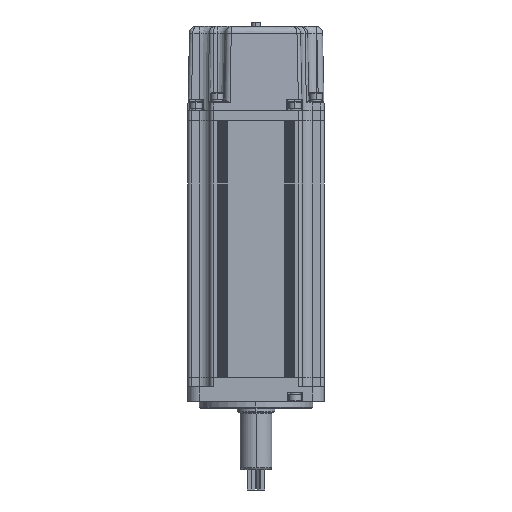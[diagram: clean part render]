
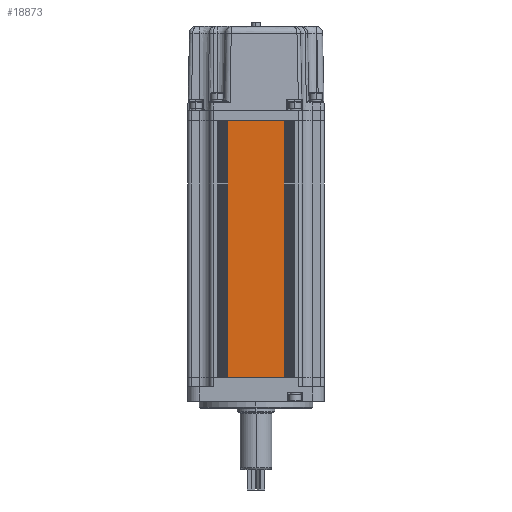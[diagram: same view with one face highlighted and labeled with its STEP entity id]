
A CAD part, left-side view. The second image highlights one B-rep face of the part: STEP entity #18873.
In plain terms, the highlighted planar face has unit normal (-1, 0, 0) as drawn and (1, 0, 0) by its records, which use the part's own axes.
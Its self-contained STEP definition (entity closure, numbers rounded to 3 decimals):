
#12036=DIRECTION('',(0.,1.,0.));
#12037=VECTOR('',#12036,25.);
#12038=CARTESIAN_POINT('',(30.,-12.5,0.));
#12039=LINE('',#12038,#12037);
#13359=DIRECTION('',(0.,1.,0.));
#13360=VECTOR('',#13359,25.);
#13361=CARTESIAN_POINT('',(30.,-12.5,113.));
#13362=LINE('',#13361,#13360);
#14517=DIRECTION('',(0.,0.,1.));
#14518=VECTOR('',#14517,113.);
#14519=CARTESIAN_POINT('',(30.,12.5,0.));
#14520=LINE('',#14519,#14518);
#14521=DIRECTION('',(0.,0.,1.));
#14522=VECTOR('',#14521,113.);
#14523=CARTESIAN_POINT('',(30.,-12.5,0.));
#14524=LINE('',#14523,#14522);
#15640=CARTESIAN_POINT('',(30.,-12.5,0.));
#15642=VERTEX_POINT('',#15640);
#15704=CARTESIAN_POINT('',(30.,-12.5,113.));
#15706=VERTEX_POINT('',#15704);
#15996=CARTESIAN_POINT('',(30.,12.5,0.));
#15997=VERTEX_POINT('',#15996);
#16028=CARTESIAN_POINT('',(30.,12.5,113.));
#16029=VERTEX_POINT('',#16028);
#18860=CARTESIAN_POINT('',(30.,-30.,0.));
#18861=DIRECTION('',(1.,0.,0.));
#18862=DIRECTION('',(0.,1.,0.));
#18863=AXIS2_PLACEMENT_3D('',#18860,#18861,#18862);
#18864=PLANE('',#18863);
#18866=ORIENTED_EDGE('',*,*,#18865,.F.);
#18867=ORIENTED_EDGE('',*,*,#16381,.F.);
#18869=ORIENTED_EDGE('',*,*,#18868,.T.);
#18870=ORIENTED_EDGE('',*,*,#17433,.T.);
#18871=EDGE_LOOP('',(#18866,#18867,#18869,#18870));
#18872=FACE_OUTER_BOUND('',#18871,.F.);
#16381=EDGE_CURVE('',#15642,#15997,#12039,.T.);
#17433=EDGE_CURVE('',#15706,#16029,#13362,.T.);
#18865=EDGE_CURVE('',#15997,#16029,#14520,.T.);
#18868=EDGE_CURVE('',#15642,#15706,#14524,.T.);
#18873=ADVANCED_FACE('',(#18872),#18864,.T.);
